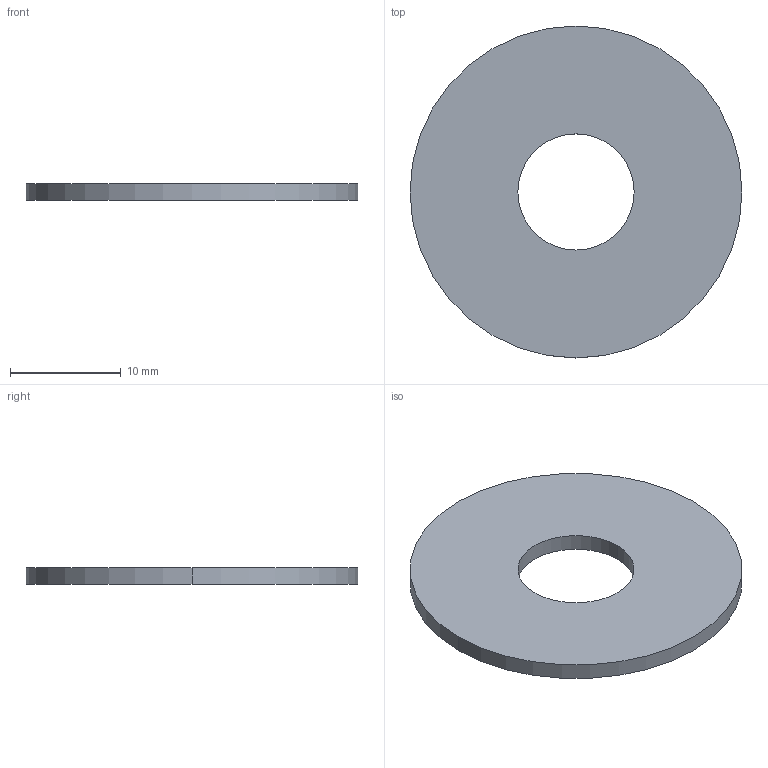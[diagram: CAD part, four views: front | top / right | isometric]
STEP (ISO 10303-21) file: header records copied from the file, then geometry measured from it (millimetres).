
FILE_DESCRIPTION (( 'STEP AP203' ), '1' );
FILE_NAME ('P0333.100-030-A4.step', '2018-12-17T19:09:02', ( '' ), ( '' ), 'SwSTEP 2.0', 'SolidWorks 2017', '' );
FILE_SCHEMA (( 'CONFIG_CONTROL_DESIGN' ));
Length unit declared in the file: millimetre
Products named in the file (1): P0333.100-030-A4
Bounding box: 30 x 30 x 1.5 mm (x, y, z)
Volume: 930.4 mm3; surface area: 1431.4 mm2
Topology: 1 solids, 1 shells, 6 faces, 12 edges, 8 vertices
Faces by surface type: cylinder 4, plane 2
Entity records: 245 total; most frequent: DIRECTION 34, CARTESIAN_POINT 27, ORIENTED_EDGE 24, AXIS2_PLACEMENT_3D 15, EDGE_CURVE 12, EDGE_LOOP 8, CIRCLE 8, PERSON_AND_ORGANIZATION 8
